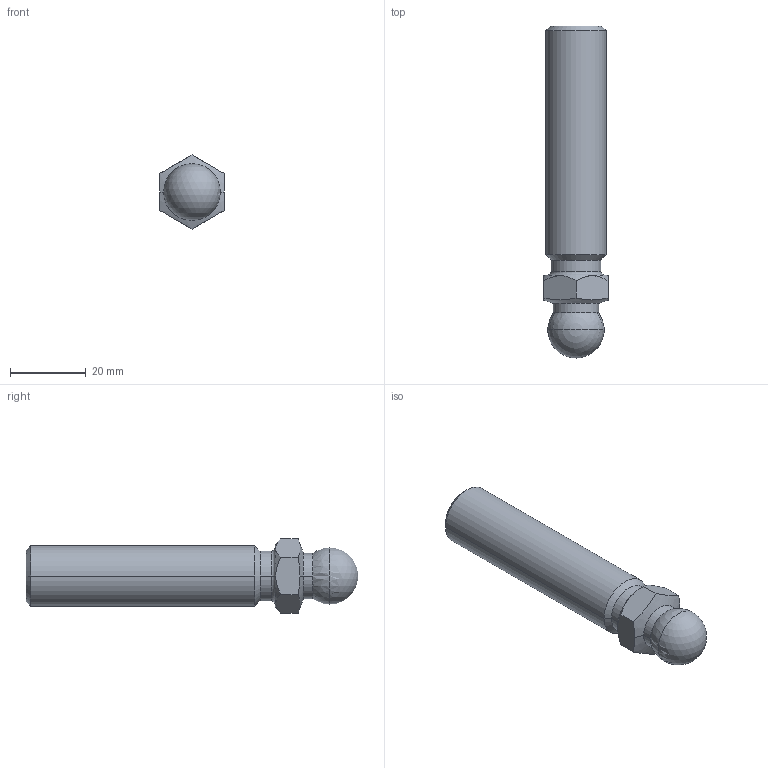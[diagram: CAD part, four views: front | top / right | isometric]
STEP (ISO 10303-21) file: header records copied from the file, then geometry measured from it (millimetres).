
FILE_DESCRIPTION(('STEP AP214'),'1');
FILE_NAME('fath_098dm16066m.stp','2017-09-25T11:46:54',('TraceParts'),('TraceParts S.A.'),'Spatial InterOp 3D',' ',' ');
FILE_SCHEMA(('automotive_design'));
Length unit declared in the file: millimetre
Products named in the file (1): fath_098dm16066m
Bounding box: 17 x 87.95 x 19.63 mm (x, y, z)
Volume: 16589.3 mm3; surface area: 4722.8 mm2
Topology: 1 solids, 1 shells, 26 faces, 62 edges, 36 vertices
Faces by surface type: cone 8, plane 8, cylinder 6, sphere 2, torus 2
Entity records: 1093 total; most frequent: CARTESIAN_POINT 293, DIRECTION 118, ORIENTED_EDGE 116, EDGE_CURVE 58, AXIS2_PLACEMENT_3D 49, VERTEX_POINT 36, EDGE_LOOP 28, STYLED_ITEM 27
